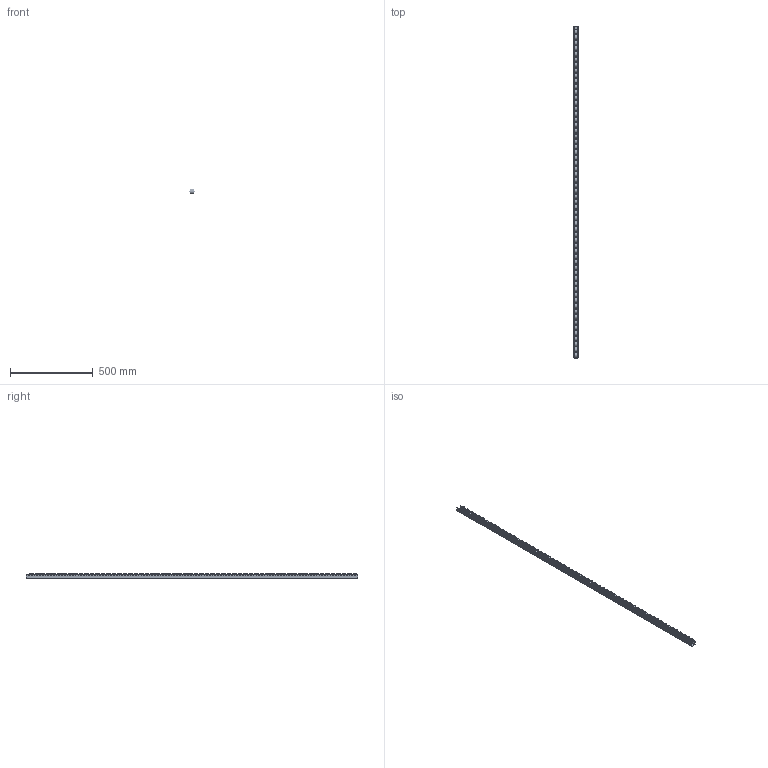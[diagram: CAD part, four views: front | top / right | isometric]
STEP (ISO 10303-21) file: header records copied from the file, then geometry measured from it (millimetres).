
FILE_DESCRIPTION(/* description */ ('Unknown'),/* implementation_level */ '2;1');
FILE_NAME(/* name */ 'Listwa T100Q',/* time_stamp */ '2022-11-30T10:18:09+01:00',/* author */ ('Unknown'),/* organization */ ('Unknown'),/* preprocessor_version */ 'ST-DEVELOPER v16.7',/* originating_system */ 'Solid Edge',/* authorisation */ 'Unknown');
FILE_SCHEMA (('AUTOMOTIVE_DESIGN {1 0 10303 214 3 1 1}'));
Length unit declared in the file: millimetre
Products named in the file (4): Listwa T100Q; Ceownik T100Q; Oœ T100Q; Rolka T 100
Assembly tree (121 placements, depth 2):
  Listwa T100Q
    Ceownik T100Q
    Oœ T100Q  x60
    Rolka T 100  x60
Bounding box: 33 x 2000 x 34.5 mm (x, y, z)
Volume: 771350 mm3; surface area: 731160.6 mm2
Topology: 121 solids, 121 shells, 5385 faces, 14800 edges, 9897 vertices
Faces by surface type: plane 4570, cylinder 695, cone 120
Full cylindrical faces by diameter (mm): 4 x120, 4.2 x31, 5 x60, 5.3 x60, 11.5 x120, 29 x60
Entity records: 52499 total; most frequent: CARTESIAN_POINT 9396, ORIENTED_EDGE 9152, DIRECTION 8508, EDGE_CURVE 4576, LINE 3940, VECTOR 3940, VERTEX_POINT 3076, AXIS2_PLACEMENT_3D 2284
